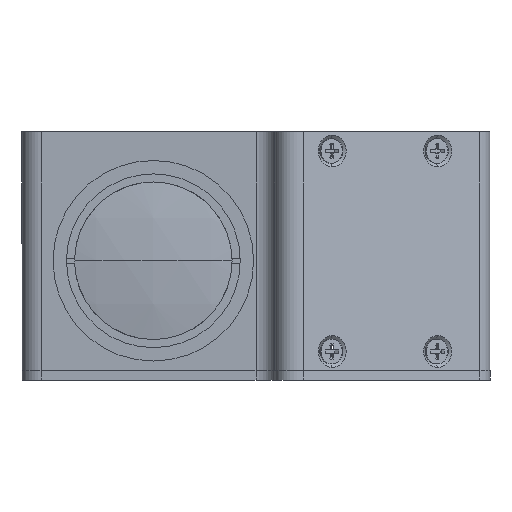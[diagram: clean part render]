
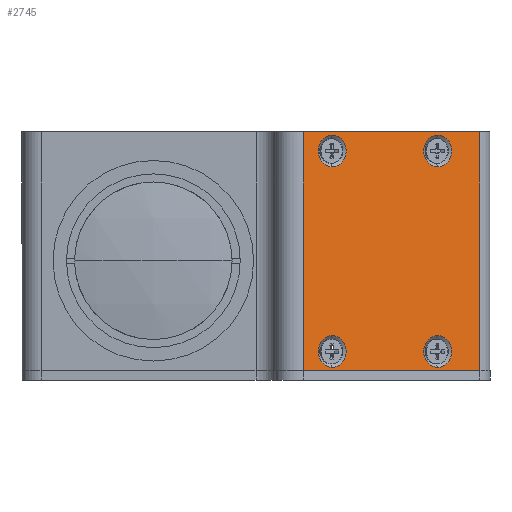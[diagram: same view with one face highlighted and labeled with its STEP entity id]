
A CAD part, left-side view. The second image highlights one B-rep face of the part: STEP entity #2745.
In plain terms, the highlighted planar face has unit normal (-0.883, -0.469, 0).
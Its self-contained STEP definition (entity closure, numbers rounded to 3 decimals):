
#101 = LINE ( 'NONE', #8060, #6260 ) ;
#109 = CARTESIAN_POINT ( 'NONE',  ( 59.561, -59.548, 26.3 ) ) ;
#147 = EDGE_LOOP ( 'NONE', ( #10182, #11211 ) ) ;
#370 = CIRCLE ( 'NONE', #6447, 3.3 ) ;
#417 = CARTESIAN_POINT ( 'NONE',  ( 47.824, -37.475, 23. ) ) ;
#563 = EDGE_CURVE ( 'NONE', #1473, #1082, #12820, .T. ) ;
#567 = FACE_OUTER_BOUND ( 'NONE', #3310, .T. ) ;
#873 = CARTESIAN_POINT ( 'NONE',  ( 47.824, -37.475, 19.7 ) ) ;
#974 = FACE_BOUND ( 'NONE', #7622, .T. ) ;
#1082 = VERTEX_POINT ( 'NONE', #12066 ) ;
#1223 = VERTEX_POINT ( 'NONE', #5520 ) ;
#1446 = CIRCLE ( 'NONE', #10857, 3.3 ) ;
#1473 = VERTEX_POINT ( 'NONE', #14321 ) ;
#1549 = LINE ( 'NONE', #7356, #4843 ) ;
#1661 = DIRECTION ( 'NONE',  ( 0., 0., 1. ) ) ;
#2010 = DIRECTION ( 'NONE',  ( 0.469, -0.883, 0. ) ) ;
#2119 = EDGE_CURVE ( 'NONE', #10300, #8019, #101, .T. ) ;
#2203 = EDGE_CURVE ( 'NONE', #5332, #1223, #1446, .T. ) ;
#2354 = EDGE_CURVE ( 'NONE', #1082, #1473, #9607, .T. ) ;
#2523 = AXIS2_PLACEMENT_3D ( 'NONE', #5298, #13227, #6517 ) ;
#2745 = ADVANCED_FACE ( 'NONE', ( #13039, #7456, #10092, #974, #567 ), #8971, .T. ) ;
#3071 = VECTOR ( 'NONE', #2010, 1000. ) ;
#3310 = EDGE_LOOP ( 'NONE', ( #14854, #10196, #5707, #11416 ) ) ;
#3461 = DIRECTION ( 'NONE',  ( -0.883, -0.469, 0. ) ) ;
#3465 = LINE ( 'NONE', #10288, #3071 ) ;
#3668 = DIRECTION ( 'NONE',  ( 0., 0., 1. ) ) ;
#3967 = CARTESIAN_POINT ( 'NONE',  ( 59.561, -59.548, 23. ) ) ;
#4288 = DIRECTION ( 'NONE',  ( -0.883, -0.469, 0. ) ) ;
#4451 = CARTESIAN_POINT ( 'NONE',  ( 59.561, -59.548, 23. ) ) ;
#4824 = CARTESIAN_POINT ( 'NONE',  ( 67.497, -74.473, -23. ) ) ;
#4843 = VECTOR ( 'NONE', #3668, 1000. ) ;
#5217 = EDGE_CURVE ( 'NONE', #5689, #15016, #9175, .T. ) ;
#5229 = EDGE_LOOP ( 'NONE', ( #9840, #10007 ) ) ;
#5244 = DIRECTION ( 'NONE',  ( 0., 0., 1. ) ) ;
#5298 = CARTESIAN_POINT ( 'NONE',  ( 47.824, -37.475, 23. ) ) ;
#5315 = CARTESIAN_POINT ( 'NONE',  ( 44.566, -31.348, -23. ) ) ;
#5332 = VERTEX_POINT ( 'NONE', #13426 ) ;
#5520 = CARTESIAN_POINT ( 'NONE',  ( 47.824, -37.475, -15.7 ) ) ;
#5625 = EDGE_CURVE ( 'NONE', #11669, #14304, #6107, .T. ) ;
#5668 = DIRECTION ( 'NONE',  ( 0., 0., 1. ) ) ;
#5689 = VERTEX_POINT ( 'NONE', #873 ) ;
#5707 = ORIENTED_EDGE ( 'NONE', *, *, #10625, .F. ) ;
#5766 = CARTESIAN_POINT ( 'NONE',  ( 59.561, -59.548, 19.7 ) ) ;
#5793 = EDGE_CURVE ( 'NONE', #9602, #8019, #7049, .T. ) ;
#5988 = CARTESIAN_POINT ( 'NONE',  ( 59.561, -59.548, -19. ) ) ;
#6001 = EDGE_CURVE ( 'NONE', #15016, #5689, #12112, .T. ) ;
#6107 = CIRCLE ( 'NONE', #13107, 3.3 ) ;
#6260 = VECTOR ( 'NONE', #13618, 1000. ) ;
#6263 = AXIS2_PLACEMENT_3D ( 'NONE', #5988, #13854, #7198 ) ;
#6447 = AXIS2_PLACEMENT_3D ( 'NONE', #3967, #12075, #5244 ) ;
#6498 = CARTESIAN_POINT ( 'NONE',  ( 59.561, -59.548, -19. ) ) ;
#6517 = DIRECTION ( 'NONE',  ( 0., 0., 1. ) ) ;
#6798 = AXIS2_PLACEMENT_3D ( 'NONE', #6498, #14290, #7649 ) ;
#6994 = CIRCLE ( 'NONE', #7074, 3.3 ) ;
#7049 = LINE ( 'NONE', #4824, #8974 ) ;
#7074 = AXIS2_PLACEMENT_3D ( 'NONE', #10499, #3461, #11617 ) ;
#7198 = DIRECTION ( 'NONE',  ( 0., 0., 1. ) ) ;
#7238 = CARTESIAN_POINT ( 'NONE',  ( 47.824, -37.475, -19. ) ) ;
#7356 = CARTESIAN_POINT ( 'NONE',  ( 64.256, -68.378, 2. ) ) ;
#7456 = FACE_BOUND ( 'NONE', #147, .T. ) ;
#7622 = EDGE_LOOP ( 'NONE', ( #13274, #13625 ) ) ;
#7649 = DIRECTION ( 'NONE',  ( 0., 0., 1. ) ) ;
#8019 = VERTEX_POINT ( 'NONE', #5315 ) ;
#8060 = CARTESIAN_POINT ( 'NONE',  ( 44.566, -31.348, 2. ) ) ;
#8067 = AXIS2_PLACEMENT_3D ( 'NONE', #417, #8852, #1661 ) ;
#8281 = EDGE_CURVE ( 'NONE', #1223, #5332, #6994, .T. ) ;
#8357 = DIRECTION ( 'NONE',  ( 0., 0., 1. ) ) ;
#8771 = CARTESIAN_POINT ( 'NONE',  ( 64.256, -68.378, 27. ) ) ;
#8852 = DIRECTION ( 'NONE',  ( -0.883, -0.469, 0. ) ) ;
#8971 = PLANE ( 'NONE',  #10773 ) ;
#8974 = VECTOR ( 'NONE', #11651, 1000. ) ;
#9175 = CIRCLE ( 'NONE', #2523, 3.3 ) ;
#9602 = VERTEX_POINT ( 'NONE', #13245 ) ;
#9607 = CIRCLE ( 'NONE', #6798, 3.3 ) ;
#9840 = ORIENTED_EDGE ( 'NONE', *, *, #13491, .F. ) ;
#10007 = ORIENTED_EDGE ( 'NONE', *, *, #5625, .F. ) ;
#10092 = FACE_BOUND ( 'NONE', #14499, .T. ) ;
#10182 = ORIENTED_EDGE ( 'NONE', *, *, #563, .F. ) ;
#10196 = ORIENTED_EDGE ( 'NONE', *, *, #12654, .T. ) ;
#10288 = CARTESIAN_POINT ( 'NONE',  ( 67.497, -74.473, 27. ) ) ;
#10300 = VERTEX_POINT ( 'NONE', #13182 ) ;
#10310 = VERTEX_POINT ( 'NONE', #8771 ) ;
#10499 = CARTESIAN_POINT ( 'NONE',  ( 47.824, -37.475, -19. ) ) ;
#10597 = CARTESIAN_POINT ( 'NONE',  ( 47.824, -37.475, 26.3 ) ) ;
#10625 = EDGE_CURVE ( 'NONE', #10300, #10310, #3465, .T. ) ;
#10773 = AXIS2_PLACEMENT_3D ( 'NONE', #11216, #4288, #12338 ) ;
#10857 = AXIS2_PLACEMENT_3D ( 'NONE', #7238, #14952, #8357 ) ;
#11211 = ORIENTED_EDGE ( 'NONE', *, *, #2354, .F. ) ;
#11216 = CARTESIAN_POINT ( 'NONE',  ( 54.469, -49.971, 2. ) ) ;
#11416 = ORIENTED_EDGE ( 'NONE', *, *, #2119, .T. ) ;
#11617 = DIRECTION ( 'NONE',  ( 0., 0., 1. ) ) ;
#11651 = DIRECTION ( 'NONE',  ( -0.469, 0.883, 0. ) ) ;
#11669 = VERTEX_POINT ( 'NONE', #5766 ) ;
#12066 = CARTESIAN_POINT ( 'NONE',  ( 59.561, -59.548, -22.3 ) ) ;
#12075 = DIRECTION ( 'NONE',  ( -0.883, -0.469, 0. ) ) ;
#12080 = ORIENTED_EDGE ( 'NONE', *, *, #8281, .F. ) ;
#12112 = CIRCLE ( 'NONE', #8067, 3.3 ) ;
#12329 = ORIENTED_EDGE ( 'NONE', *, *, #2203, .F. ) ;
#12338 = DIRECTION ( 'NONE',  ( 0., 0., 1. ) ) ;
#12471 = DIRECTION ( 'NONE',  ( -0.883, -0.469, 0. ) ) ;
#12654 = EDGE_CURVE ( 'NONE', #9602, #10310, #1549, .T. ) ;
#12820 = CIRCLE ( 'NONE', #6263, 3.3 ) ;
#13039 = FACE_BOUND ( 'NONE', #5229, .T. ) ;
#13107 = AXIS2_PLACEMENT_3D ( 'NONE', #4451, #12471, #5668 ) ;
#13182 = CARTESIAN_POINT ( 'NONE',  ( 44.566, -31.348, 27. ) ) ;
#13227 = DIRECTION ( 'NONE',  ( -0.883, -0.469, 0. ) ) ;
#13245 = CARTESIAN_POINT ( 'NONE',  ( 64.256, -68.378, -23. ) ) ;
#13274 = ORIENTED_EDGE ( 'NONE', *, *, #6001, .F. ) ;
#13426 = CARTESIAN_POINT ( 'NONE',  ( 47.824, -37.475, -22.3 ) ) ;
#13491 = EDGE_CURVE ( 'NONE', #14304, #11669, #370, .T. ) ;
#13618 = DIRECTION ( 'NONE',  ( 0., 0., -1. ) ) ;
#13625 = ORIENTED_EDGE ( 'NONE', *, *, #5217, .F. ) ;
#13854 = DIRECTION ( 'NONE',  ( -0.883, -0.469, 0. ) ) ;
#14290 = DIRECTION ( 'NONE',  ( -0.883, -0.469, 0. ) ) ;
#14304 = VERTEX_POINT ( 'NONE', #109 ) ;
#14321 = CARTESIAN_POINT ( 'NONE',  ( 59.561, -59.548, -15.7 ) ) ;
#14499 = EDGE_LOOP ( 'NONE', ( #12080, #12329 ) ) ;
#14854 = ORIENTED_EDGE ( 'NONE', *, *, #5793, .F. ) ;
#14952 = DIRECTION ( 'NONE',  ( -0.883, -0.469, 0. ) ) ;
#15016 = VERTEX_POINT ( 'NONE', #10597 ) ;
